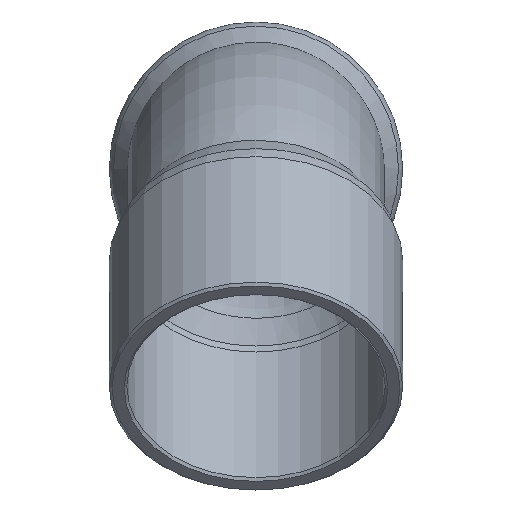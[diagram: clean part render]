
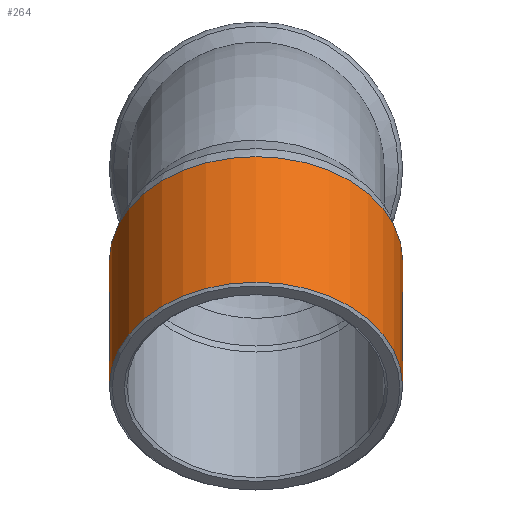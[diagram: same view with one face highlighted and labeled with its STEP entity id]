
A CAD part, top view. The second image highlights one B-rep face of the part: STEP entity #264.
In plain terms, the highlighted free-form (B-spline) face has degree [1, 2] with [2, 9] control points.
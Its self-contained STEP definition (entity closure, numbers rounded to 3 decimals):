
#192=CARTESIAN_POINT('',(0.,14.414,33.365));
#193=VERTEX_POINT('',#192);
#194=CARTESIAN_POINT('',(0.0,6.718,25.668));
#195=DIRECTION('',(0.0,-0.707,0.707));
#196=DIRECTION('',(0.0,-0.707,-0.707));
#197=AXIS2_PLACEMENT_3D('',#194,#195,#196);
#198=CIRCLE('',#197,10.885);
#199=EDGE_CURVE('',#193,#193,#198,.T.);
#224=CARTESIAN_POINT('',(0.,16.051,0.94));
#225=CARTESIAN_POINT('',(0.,-8.676,25.668));
#226=CARTESIAN_POINT('',(-10.885,16.051,0.94));
#227=CARTESIAN_POINT('',(-10.885,-8.676,25.668));
#228=CARTESIAN_POINT('',(-10.885,23.748,8.637));
#229=CARTESIAN_POINT('',(-10.885,-0.979,33.365));
#230=CARTESIAN_POINT('',(-10.885,31.445,16.334));
#231=CARTESIAN_POINT('',(-10.885,6.718,41.062));
#232=CARTESIAN_POINT('',(0.,31.445,16.334));
#233=CARTESIAN_POINT('',(0.,6.718,41.062));
#234=CARTESIAN_POINT('',(10.885,31.445,16.334));
#235=CARTESIAN_POINT('',(10.885,6.718,41.062));
#236=CARTESIAN_POINT('',(10.885,23.748,8.637));
#237=CARTESIAN_POINT('',(10.885,-0.979,33.365));
#238=CARTESIAN_POINT('',(10.885,16.051,0.94));
#239=CARTESIAN_POINT('',(10.885,-8.676,25.668));
#240=CARTESIAN_POINT('',(0.,16.051,0.94));
#241=CARTESIAN_POINT('',(0.,-8.676,25.668));
#249=(BOUNDED_SURFACE()B_SPLINE_SURFACE(1,2,((#224,#226,#228,#230,#232,#234,#236,#238,#240),(#225,#227,#229,#231,#233,#235,#237,#239,#241)),.UNSPECIFIED.,.F.,.T.,.U.)B_SPLINE_SURFACE_WITH_KNOTS((2,2),(3,2,2,2,3),(-1.616,1.597),(0.0,17.098,34.196,51.294,68.392),.UNSPECIFIED.)GEOMETRIC_REPRESENTATION_ITEM()RATIONAL_B_SPLINE_SURFACE(((1.0,0.707,1.0,0.707,1.0,0.707,1.0,0.707,1.0),(1.0,0.707,1.0,0.707,1.0,0.707,1.0,0.707,1.0)))REPRESENTATION_ITEM('')SURFACE());
#250=CARTESIAN_POINT('',(0.0,23.748,24.031));
#251=VERTEX_POINT('',#250);
#252=CARTESIAN_POINT('',(0.0,16.051,16.334));
#253=DIRECTION('',(0.0,0.707,-0.707));
#254=DIRECTION('',(0.0,0.707,0.707));
#255=AXIS2_PLACEMENT_3D('',#252,#253,#254);
#256=CIRCLE('',#255,10.885);
#257=EDGE_CURVE('',#251,#251,#256,.T.);
#258=ORIENTED_EDGE('',*,*,#257,.F.);
#259=EDGE_LOOP('',(#258));
#260=FACE_OUTER_BOUND('',#259,.T.);
#261=ORIENTED_EDGE('',*,*,#199,.F.);
#262=EDGE_LOOP('',(#261));
#263=FACE_BOUND('',#262,.T.);
#264=ADVANCED_FACE('',(#260,#263),#249,.T.);
